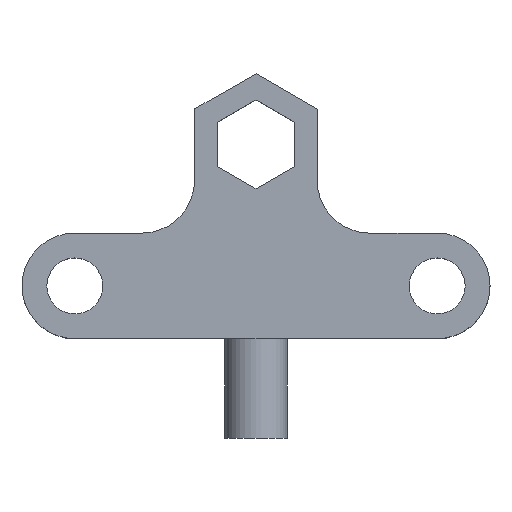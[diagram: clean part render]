
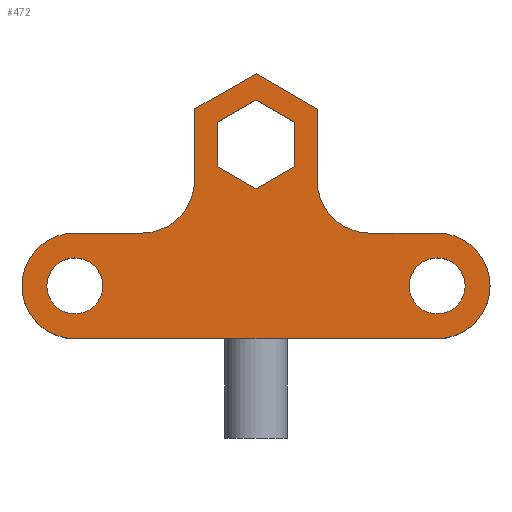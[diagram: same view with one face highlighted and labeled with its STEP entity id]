
A CAD part, top view. The second image highlights one B-rep face of the part: STEP entity #472.
In plain terms, the highlighted planar face has unit normal (0, 0, 1).
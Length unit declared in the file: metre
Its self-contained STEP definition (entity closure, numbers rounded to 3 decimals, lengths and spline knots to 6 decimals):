
#21=CIRCLE('',#499,0.0127);
#23=CIRCLE('',#503,0.0127);
#24=CIRCLE('',#512,0.006731);
#27=CIRCLE('',#517,0.0127);
#28=CIRCLE('',#519,0.006731);
#30=CIRCLE('',#522,0.0127);
#110=ORIENTED_EDGE('',*,*,#178,.T.);
#111=ORIENTED_EDGE('',*,*,#182,.T.);
#112=ORIENTED_EDGE('',*,*,#185,.F.);
#113=ORIENTED_EDGE('',*,*,#188,.F.);
#114=ORIENTED_EDGE('',*,*,#191,.T.);
#115=ORIENTED_EDGE('',*,*,#194,.T.);
#116=ORIENTED_EDGE('',*,*,#197,.T.);
#117=ORIENTED_EDGE('',*,*,#200,.T.);
#118=ORIENTED_EDGE('',*,*,#203,.T.);
#119=ORIENTED_EDGE('',*,*,#206,.T.);
#120=ORIENTED_EDGE('',*,*,#219,.T.);
#121=ORIENTED_EDGE('',*,*,#207,.F.);
#122=ORIENTED_EDGE('',*,*,#216,.T.);
#123=ORIENTED_EDGE('',*,*,#161,.F.);
#124=ORIENTED_EDGE('',*,*,#165,.F.);
#125=ORIENTED_EDGE('',*,*,#168,.F.);
#126=ORIENTED_EDGE('',*,*,#171,.F.);
#127=ORIENTED_EDGE('',*,*,#174,.F.);
#128=ORIENTED_EDGE('',*,*,#214,.F.);
#129=ORIENTED_EDGE('',*,*,#211,.F.);
#130=ORIENTED_EDGE('',*,*,#217,.F.);
#161=EDGE_CURVE('',#224,#225,#268,.T.);
#165=EDGE_CURVE('',#227,#224,#272,.T.);
#168=EDGE_CURVE('',#229,#227,#275,.T.);
#171=EDGE_CURVE('',#231,#229,#278,.T.);
#174=EDGE_CURVE('',#233,#231,#281,.T.);
#178=EDGE_CURVE('',#238,#237,#284,.T.);
#182=EDGE_CURVE('',#237,#240,#21,.T.);
#185=EDGE_CURVE('',#242,#240,#289,.T.);
#188=EDGE_CURVE('',#244,#242,#23,.T.);
#191=EDGE_CURVE('',#244,#246,#293,.T.);
#194=EDGE_CURVE('',#246,#248,#296,.T.);
#197=EDGE_CURVE('',#248,#250,#299,.T.);
#200=EDGE_CURVE('',#250,#252,#302,.T.);
#203=EDGE_CURVE('',#252,#254,#305,.T.);
#206=EDGE_CURVE('',#254,#256,#308,.T.);
#207=EDGE_CURVE('',#257,#258,#309,.T.);
#211=EDGE_CURVE('',#261,#261,#24,.T.);
#214=EDGE_CURVE('',#225,#233,#314,.T.);
#216=EDGE_CURVE('',#257,#238,#27,.T.);
#217=EDGE_CURVE('',#263,#263,#28,.T.);
#219=EDGE_CURVE('',#256,#258,#30,.F.);
#224=VERTEX_POINT('',#664);
#225=VERTEX_POINT('',#666);
#227=VERTEX_POINT('',#672);
#229=VERTEX_POINT('',#678);
#231=VERTEX_POINT('',#684);
#233=VERTEX_POINT('',#690);
#237=VERTEX_POINT('',#699);
#238=VERTEX_POINT('',#701);
#240=VERTEX_POINT('',#707);
#242=VERTEX_POINT('',#713);
#244=VERTEX_POINT('',#719);
#246=VERTEX_POINT('',#725);
#248=VERTEX_POINT('',#731);
#250=VERTEX_POINT('',#737);
#252=VERTEX_POINT('',#743);
#254=VERTEX_POINT('',#749);
#256=VERTEX_POINT('',#755);
#257=VERTEX_POINT('',#759);
#258=VERTEX_POINT('',#760);
#261=VERTEX_POINT('',#768);
#263=VERTEX_POINT('',#779);
#268=LINE('',#665,#317);
#272=LINE('',#673,#321);
#275=LINE('',#679,#324);
#278=LINE('',#685,#327);
#281=LINE('',#691,#330);
#284=LINE('',#700,#333);
#289=LINE('',#714,#338);
#293=LINE('',#726,#342);
#296=LINE('',#732,#345);
#299=LINE('',#738,#348);
#302=LINE('',#744,#351);
#305=LINE('',#750,#354);
#308=LINE('',#756,#357);
#309=LINE('',#758,#358);
#314=LINE('',#773,#363);
#317=VECTOR('',#535,1.);
#321=VECTOR('',#541,1.);
#324=VECTOR('',#546,1.);
#327=VECTOR('',#551,1.);
#330=VECTOR('',#556,1.);
#333=VECTOR('',#563,1.);
#338=VECTOR('',#576,1.);
#342=VECTOR('',#588,1.);
#345=VECTOR('',#593,1.);
#348=VECTOR('',#598,1.);
#351=VECTOR('',#603,1.);
#354=VECTOR('',#608,1.);
#357=VECTOR('',#613,1.);
#358=VECTOR('',#616,1.);
#363=VECTOR('',#629,1.);
#387=EDGE_LOOP('',(#110,#111,#112,#113,#114,#115,#116,#117,#118,#119,#120,
#121,#122));
#388=EDGE_LOOP('',(#123,#124,#125,#126,#127,#128));
#389=EDGE_LOOP('',(#129));
#390=EDGE_LOOP('',(#130));
#422=FACE_BOUND('',#387,.T.);
#423=FACE_BOUND('',#388,.T.);
#424=FACE_BOUND('',#389,.T.);
#425=FACE_BOUND('',#390,.T.);
#449=PLANE('',#521);
#472=ADVANCED_FACE('',(#422,#423,#424,#425),#449,.T.);
#499=AXIS2_PLACEMENT_3D('',#708,#570,#571);
#503=AXIS2_PLACEMENT_3D('',#720,#582,#583);
#512=AXIS2_PLACEMENT_3D('',#767,#622,#623);
#517=AXIS2_PLACEMENT_3D('',#776,#634,#635);
#519=AXIS2_PLACEMENT_3D('',#778,#638,#639);
#521=AXIS2_PLACEMENT_3D('',#782,#642,#643);
#522=AXIS2_PLACEMENT_3D('',#783,#644,#645);
#535=DIRECTION('',(-0.866,0.5,0.));
#541=DIRECTION('',(0.,1.,0.));
#546=DIRECTION('',(0.866,0.5,0.));
#551=DIRECTION('',(0.866,-0.5,0.));
#556=DIRECTION('',(0.,-1.,0.));
#563=DIRECTION('',(1.,0.,0.));
#570=DIRECTION('',(0.,0.,1.));
#571=DIRECTION('',(1.,0.,0.));
#576=DIRECTION('',(1.,0.,0.));
#582=DIRECTION('',(0.,0.,1.));
#583=DIRECTION('',(1.,0.,0.));
#588=DIRECTION('',(0.,1.,0.));
#593=DIRECTION('',(0.005,1.,0.));
#598=DIRECTION('',(-0.864,0.504,0.));
#603=DIRECTION('',(-0.868,-0.496,0.));
#608=DIRECTION('',(-0.005,-1.,0.));
#613=DIRECTION('',(0.,-1.,0.));
#616=DIRECTION('',(1.,0.,0.));
#622=DIRECTION('',(0.,0.,1.));
#623=DIRECTION('',(1.,0.,0.));
#629=DIRECTION('',(-0.866,-0.5,0.));
#634=DIRECTION('',(0.,0.,1.));
#635=DIRECTION('',(1.,0.,0.));
#638=DIRECTION('',(0.,0.,1.));
#639=DIRECTION('',(1.,0.,0.));
#642=DIRECTION('',(0.,0.,1.));
#643=DIRECTION('',(1.,0.,0.));
#644=DIRECTION('',(0.,0.,1.));
#645=DIRECTION('',(1.,0.,0.));
#664=CARTESIAN_POINT('',(0.009239,0.069684,0.0254));
#665=CARTESIAN_POINT('',(0.004619,0.072351,0.0254));
#666=CARTESIAN_POINT('',(0.,0.075018,0.0254));
#672=CARTESIAN_POINT('',(0.009239,0.059016,0.0254));
#673=CARTESIAN_POINT('',(0.009239,0.06435,0.0254));
#678=CARTESIAN_POINT('',(0.,0.053682,0.0254));
#679=CARTESIAN_POINT('',(0.004619,0.056349,0.0254));
#684=CARTESIAN_POINT('',(-0.009239,0.059016,0.0254));
#685=CARTESIAN_POINT('',(-0.004619,0.056349,0.0254));
#690=CARTESIAN_POINT('',(-0.009239,0.069684,0.0254));
#691=CARTESIAN_POINT('',(-0.009239,0.06435,0.0254));
#699=CARTESIAN_POINT('',(0.04361,0.0176,0.0254));
#700=CARTESIAN_POINT('',(0.,0.0176,0.0254));
#701=CARTESIAN_POINT('',(-0.04361,0.0176,0.0254));
#707=CARTESIAN_POINT('',(0.04361,0.043,0.0254));
#708=CARTESIAN_POINT('',(0.04361,0.0303,0.0254));
#713=CARTESIAN_POINT('',(0.027396,0.043,0.0254));
#714=CARTESIAN_POINT('',(0.035503,0.043,0.0254));
#719=CARTESIAN_POINT('',(0.014696,0.0557,0.0254));
#720=CARTESIAN_POINT('',(0.027396,0.0557,0.0254));
#725=CARTESIAN_POINT('',(0.014696,0.055768,0.0254));
#726=CARTESIAN_POINT('',(0.014696,0.055734,0.0254));
#731=CARTESIAN_POINT('',(0.01478,0.072786,0.0254));
#732=CARTESIAN_POINT('',(0.014738,0.064277,0.0254));
#737=CARTESIAN_POINT('',(0.000084,0.081368,0.0254));
#738=CARTESIAN_POINT('',(0.007432,0.077077,0.0254));
#743=CARTESIAN_POINT('',(-0.014696,0.072932,0.0254));
#744=CARTESIAN_POINT('',(-0.007306,0.07715,0.0254));
#749=CARTESIAN_POINT('',(-0.01478,0.055914,0.0254));
#750=CARTESIAN_POINT('',(-0.014738,0.064423,0.0254));
#755=CARTESIAN_POINT('',(-0.01478,0.0557,0.0254));
#756=CARTESIAN_POINT('',(-0.01478,0.050144,0.0254));
#758=CARTESIAN_POINT('',(-0.029195,0.043,0.0254));
#759=CARTESIAN_POINT('',(-0.04361,0.043,0.0254));
#760=CARTESIAN_POINT('',(-0.02748,0.043,0.0254));
#767=CARTESIAN_POINT('',(-0.04361,0.0303,0.0254));
#768=CARTESIAN_POINT('',(-0.036879,0.0303,0.0254));
#773=CARTESIAN_POINT('',(-0.004619,0.072351,0.0254));
#776=CARTESIAN_POINT('',(-0.04361,0.0303,0.0254));
#778=CARTESIAN_POINT('',(0.04361,0.0303,0.0254));
#779=CARTESIAN_POINT('',(0.050341,0.0303,0.0254));
#782=CARTESIAN_POINT('',(0.,0.049484,0.0254));
#783=CARTESIAN_POINT('',(-0.02748,0.0557,0.0254));
